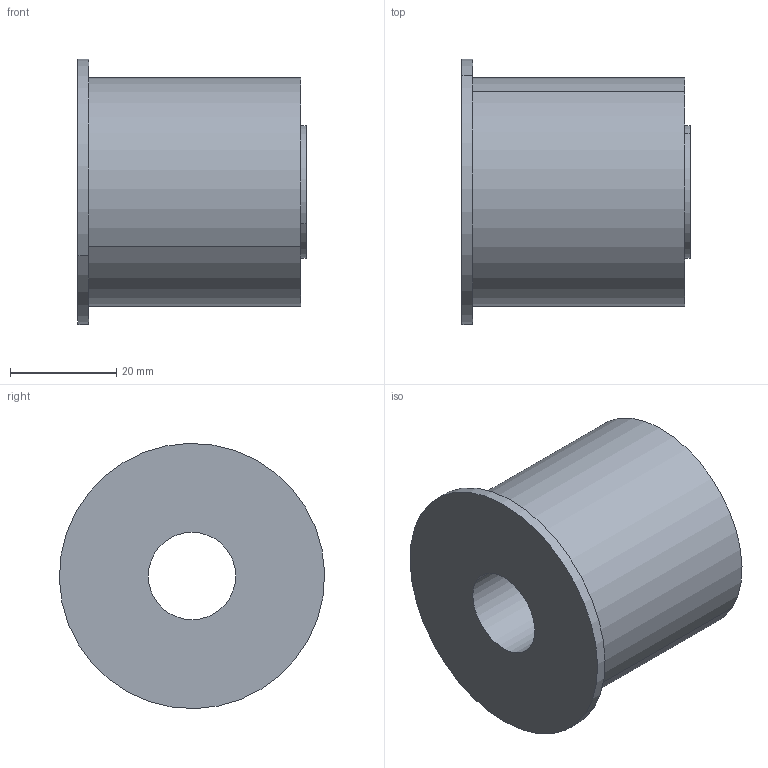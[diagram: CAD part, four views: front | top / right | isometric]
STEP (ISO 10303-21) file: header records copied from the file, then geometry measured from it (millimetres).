
FILE_DESCRIPTION(('CATIA V5 STEP Exchange'),'2;1');
FILE_NAME('C:\Users\ghidonia\Desktop\Rollo\P20901_01.stp','2016-06-09T13:21:55+00:00',('none'),('none'),'Version 5-6 Release 2012','CATIA V5 STEP AP203','none');
FILE_SCHEMA(('CONFIG_CONTROL_DESIGN'));
Length unit declared in the file: millimetre
Products named in the file (1): P20901_01
Bounding box: 43 x 49.99 x 49.99 mm (x, y, z)
Volume: 53311.5 mm3; surface area: 11524.5 mm2
Topology: 1 solids, 1 shells, 12 faces, 24 edges, 16 vertices
Faces by surface type: cylinder 8, plane 4
Entity records: 334 total; most frequent: CARTESIAN_POINT 49, ORIENTED_EDGE 48, DIRECTION 40, AXIS2_PLACEMENT_3D 25, EDGE_CURVE 24, CIRCLE 16, EDGE_LOOP 16, VERTEX_POINT 16
